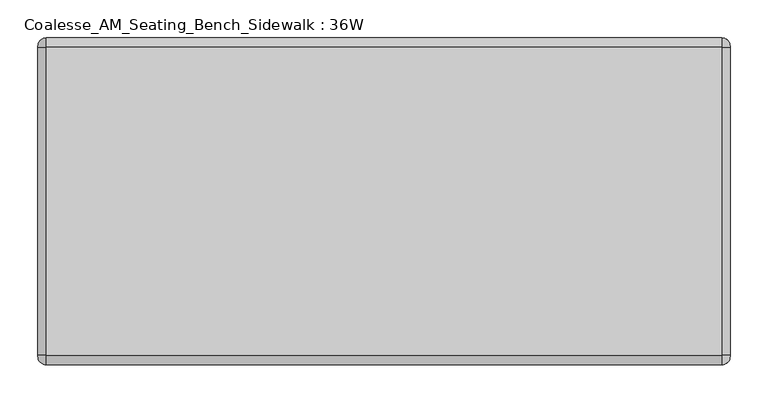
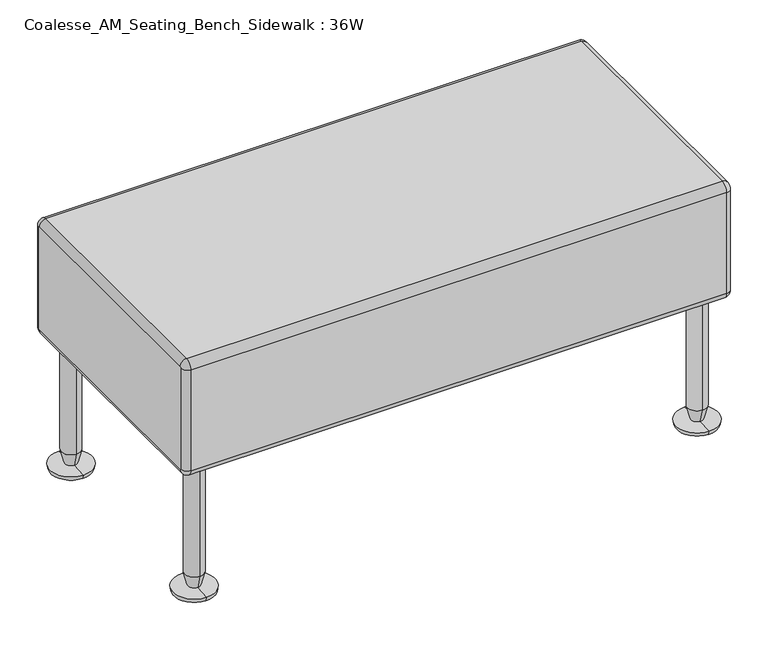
"""IFC4 building model written with IfcOpenShell, lengths in millimetres: furniture geometry, Coalesse_AM_Seating_Bench_Sidewalk : 36W."""

from ifc_helpers import new_model, si_unit, point, frame, origin, place, context, project, spatial, polyline, circle_curve, ellipse_curve, trimmed, source, transform, mapped, element, save
from ifc_brep_helpers import plane_surface, cylinder_surface, revolved_surface, advanced_brep


def coalesse_am_seating_bench_sidewalk_36w_3323d4bf(model_context):
    return source(origin(), model_context, "Body", "AdvancedBrep", [
        advanced_brep(
        [(465.8089794, -146.3050929, 420.6875), (465.8089794, -144.7175929, 419.1), (465.8089794, -144.7175929, 241.3), (465.8089794, -146.3050929, 239.7125), (465.8089794, -552.7050929, 239.7125), (465.8089794, -554.2925929, 241.3), (465.8089794, -554.2925929, 419.1), (465.8089794, -552.7050929, 420.6875), (1380.2089794, -552.7050929, 420.6875), (1380.2089794, -554.2925929, 419.1), (1380.2089794, -554.2925929, 241.3), (1380.2089794, -552.7050929, 239.7125), (1380.2089794, -146.3050929, 239.7125), (1380.2089794, -144.7175929, 241.3), (1380.2089794, -144.7175929, 419.1), (1380.2089794, -146.3050929, 420.6875), (476.9214794, -146.3050929, 431.8), (476.9214794, -552.7050929, 431.8), (1369.0964794, -552.7050929, 431.8), (1369.0964794, -146.3050929, 431.8), (476.9214794, -133.6050929, 419.1), (1369.0964794, -133.6050929, 419.1), (476.9214794, -133.6050929, 241.3), (1369.0964794, -133.6050929, 241.3), (476.9214794, -146.3050929, 228.6), (1369.0964794, -146.3050929, 228.6), (476.9214794, -552.7050929, 228.6), (1369.0964794, -552.7050929, 228.6), (476.9214794, -565.4050929, 241.3), (1369.0964794, -565.4050929, 241.3), (476.9214794, -565.4050929, 419.1), (1369.0964794, -565.4050929, 419.1)],
        [
            (0, 1, circle_curve(frame((465.8089794, -146.3050929, 419.1), z_axis=(-1.0, 0.0, 0.0), x_axis=(0.0, 0.0, 1.0)), 1.5875)),
            (1, 2),
            (2, 3, circle_curve(frame((465.8089794, -146.3050929, 241.3), z_axis=(-1.0, 0.0, 0.0), x_axis=(0.0, 1.0, 0.0)), 1.5875)),
            (3, 4),
            (4, 5, circle_curve(frame((465.8089794, -552.7050929, 241.3), z_axis=(-1.0, 0.0, 0.0), x_axis=(0.0, 0.0, -1.0)), 1.5875)),
            (5, 6),
            (6, 7, circle_curve(frame((465.8089794, -552.7050929, 419.1), z_axis=(-1.0, 0.0, 0.0), x_axis=(0.0, -1.0, 0.0)), 1.5875)),
            (7, 0),
            (8, 9, circle_curve(frame((1380.2089794, -552.7050929, 419.1), z_axis=(1.0, 0.0, 0.0), x_axis=(0.0, 0.0, 1.0)), 1.5875)),
            (9, 10),
            (10, 11, circle_curve(frame((1380.2089794, -552.7050929, 241.3), z_axis=(1.0, 0.0, 0.0), x_axis=(0.0, -1.0, 0.0)), 1.5875)),
            (11, 12),
            (12, 13, circle_curve(frame((1380.2089794, -146.3050929, 241.3), z_axis=(1.0, 0.0, 0.0), x_axis=(0.0, 0.0, -1.0)), 1.5875)),
            (13, 14),
            (14, 15, circle_curve(frame((1380.2089794, -146.3050929, 419.1), z_axis=(1.0, 0.0, 0.0), x_axis=(0.0, 1.0, 0.0)), 1.5875)),
            (15, 8),
            (16, 17),
            (17, 18),
            (18, 19),
            (19, 16),
            (20, 16, circle_curve(frame((476.9214794, -146.3050929, 419.1), z_axis=(1.0, 0.0, 0.0), x_axis=(0.0, -1.0, 0.0)), 12.7)),
            (19, 21, circle_curve(frame((1369.0964794, -146.3050929, 419.1), z_axis=(-1.0, 0.0, 0.0), x_axis=(0.0, -1.0, 0.0)), 12.7)),
            (21, 20),
            (22, 20),
            (21, 23),
            (23, 22),
            (24, 22, circle_curve(frame((476.9214794, -146.3050929, 241.3), z_axis=(1.0, 0.0, 0.0), x_axis=(0.0, -1.0, 0.0)), 12.7)),
            (23, 25, circle_curve(frame((1369.0964794, -146.3050929, 241.3), z_axis=(-1.0, 0.0, 0.0), x_axis=(0.0, -1.0, 0.0)), 12.7)),
            (25, 24),
            (26, 24),
            (25, 27),
            (27, 26),
            (28, 26, circle_curve(frame((476.9214794, -552.7050929, 241.3), z_axis=(1.0, 0.0, 0.0), x_axis=(0.0, -1.0, 0.0)), 12.7)),
            (27, 29, circle_curve(frame((1369.0964794, -552.7050929, 241.3), z_axis=(-1.0, 0.0, 0.0), x_axis=(0.0, -1.0, 0.0)), 12.7)),
            (29, 28),
            (30, 28),
            (29, 31),
            (31, 30),
            (17, 30, circle_curve(frame((476.9214794, -552.7050929, 419.1), z_axis=(1.0, 0.0, 0.0), x_axis=(0.0, -1.0, 0.0)), 12.7)),
            (31, 18, circle_curve(frame((1369.0964794, -552.7050929, 419.1), z_axis=(-1.0, 0.0, 0.0), x_axis=(0.0, -1.0, 0.0)), 12.7)),
            (20, 1, circle_curve(frame((476.9214794, -144.7175929, 419.1), z_axis=(0.0, 0.0, 1.0), x_axis=(0.0, -1.0, 0.0)), 11.1125)),
            (0, 16, circle_curve(frame((476.9214794, -146.3050929, 420.6875), z_axis=(0.0, 1.0, 0.0), x_axis=(0.0, 0.0, -1.0)), 11.1125)),
            (22, 2, circle_curve(frame((476.9214794, -144.7175929, 241.3), z_axis=(0.0, 0.0, 1.0), x_axis=(0.0, -1.0, 0.0)), 11.1125)),
            (24, 3, circle_curve(frame((476.9214794, -146.3050929, 239.7125), z_axis=(0.0, 1.0, 0.0), x_axis=(0.0, 0.0, 1.0)), 11.1125)),
            (26, 4, circle_curve(frame((476.9214794, -552.7050929, 239.7125), z_axis=(0.0, 1.0, 0.0), x_axis=(0.0, 0.0, 1.0)), 11.1125)),
            (28, 5, circle_curve(frame((476.9214794, -554.2925929, 241.3), z_axis=(0.0, 0.0, -1.0), x_axis=(0.0, 1.0, 0.0)), 11.1125)),
            (30, 6, circle_curve(frame((476.9214794, -554.2925929, 419.1), z_axis=(0.0, 0.0, -1.0), x_axis=(0.0, 1.0, 0.0)), 11.1125)),
            (17, 7, circle_curve(frame((476.9214794, -552.7050929, 420.6875), z_axis=(0.0, -1.0, 0.0), x_axis=(0.0, 0.0, -1.0)), 11.1125)),
            (31, 9, circle_curve(frame((1369.0964794, -554.2925929, 419.1), z_axis=(0.0, 0.0, 1.0), x_axis=(0.0, -1.0, 0.0)), 11.1125)),
            (8, 18, circle_curve(frame((1369.0964794, -552.7050929, 420.6875), z_axis=(0.0, -1.0, 0.0), x_axis=(0.0, 0.0, 1.0)), 11.1125)),
            (29, 10, circle_curve(frame((1369.0964794, -554.2925929, 241.3), z_axis=(0.0, 0.0, 1.0), x_axis=(0.0, -1.0, 0.0)), 11.1125)),
            (27, 11, circle_curve(frame((1369.0964794, -552.7050929, 239.7125), z_axis=(0.0, -1.0, 0.0), x_axis=(0.0, 0.0, -1.0)), 11.1125)),
            (25, 12, circle_curve(frame((1369.0964794, -146.3050929, 239.7125), z_axis=(0.0, -1.0, 0.0), x_axis=(0.0, 0.0, -1.0)), 11.1125)),
            (23, 13, circle_curve(frame((1369.0964794, -144.7175929, 241.3), z_axis=(0.0, 0.0, -1.0), x_axis=(0.0, 1.0, 0.0)), 11.1125)),
            (21, 14, circle_curve(frame((1369.0964794, -144.7175929, 419.1), z_axis=(0.0, 0.0, -1.0), x_axis=(0.0, 1.0, 0.0)), 11.1125)),
            (19, 15, circle_curve(frame((1369.0964794, -146.3050929, 420.6875), z_axis=(0.0, 1.0, 0.0), x_axis=(0.0, 0.0, 1.0)), 11.1125)),
        ],
        [
            plane_surface(frame((465.8089794, -146.3050929, 431.8), z_axis=(-1.0, 0.0, 0.0), x_axis=(0.0, 1.0, 0.0))),
            plane_surface(frame((1380.2089794, -146.3050929, 431.8), z_axis=(1.0, 0.0, 0.0), x_axis=(0.0, -1.0, 0.0))),
            plane_surface(frame((465.8089794, -552.7050929, 431.8), z_axis=(0.0, 0.0, 1.0), x_axis=(1.0, 0.0, 0.0))),
            cylinder_surface(frame((1380.2089794, -146.3050929, 419.1), z_axis=(-1.0, 0.0, 0.0), x_axis=(0.0, -1.0, 0.0)), 12.7),
            plane_surface(frame((465.8089794, -133.6050929, 419.1), z_axis=(0.0, 1.0, 0.0), x_axis=(1.0, 0.0, 0.0))),
            cylinder_surface(frame((1380.2089794, -146.3050929, 241.3), z_axis=(-1.0, 0.0, 0.0), x_axis=(0.0, -1.0, 0.0)), 12.7),
            plane_surface(frame((465.8089794, -146.3050929, 228.6), z_axis=(0.0, 0.0, -1.0), x_axis=(1.0, 0.0, 0.0))),
            cylinder_surface(frame((1380.2089794, -552.7050929, 241.3), z_axis=(-1.0, 0.0, 0.0), x_axis=(0.0, -1.0, 0.0)), 12.7),
            plane_surface(frame((465.8089794, -565.4050929, 241.3), z_axis=(0.0, -1.0, 0.0), x_axis=(1.0, 0.0, 0.0))),
            cylinder_surface(frame((1380.2089794, -552.7050929, 419.1), z_axis=(-1.0, 0.0, 0.0), x_axis=(0.0, -1.0, 0.0)), 12.7),
            revolved_surface(trimmed(ellipse_curve(frame((476.9214794, -146.3050929, 420.6875), z_axis=(0.0, -1.0, 0.0), x_axis=(0.0, 0.0, -1.0)), 11.1125, 11.1125), [point((476.9214794, -146.3050929, 431.8))], [point((465.8089794, -146.3050929, 420.6875))], True, "CARTESIAN"), (465.8089794, -146.3050929, 419.1), (-1.0, 0.0, 0.0)),
            cylinder_surface(frame((476.9214794, -144.7175929, 419.1), z_axis=(0.0, 0.0, -1.0), x_axis=(0.0, -1.0, 0.0)), 11.1125),
            revolved_surface(trimmed(ellipse_curve(frame((476.9214794, -144.7175929, 241.3), z_axis=(0.0, 0.0, 1.0), x_axis=(0.0, -1.0, 0.0)), 11.1125, 11.1125), [point((476.9214794, -133.6050929, 241.3))], [point((465.8089794, -144.7175929, 241.3))], True, "CARTESIAN"), (465.8089794, -146.3050929, 241.3), (-1.0, 0.0, 0.0)),
            cylinder_surface(frame((476.9214794, -146.3050929, 239.7125), z_axis=(0.0, -1.0, 0.0), x_axis=(0.0, 0.0, 1.0)), 11.1125),
            revolved_surface(trimmed(ellipse_curve(frame((476.9214794, -552.7050929, 239.7125), z_axis=(0.0, 1.0, 0.0), x_axis=(0.0, 0.0, 1.0)), 11.1125, 11.1125), [point((476.9214794, -552.7050929, 228.6))], [point((465.8089794, -552.7050929, 239.7125))], True, "CARTESIAN"), (465.8089794, -552.7050929, 241.3), (-1.0, 0.0, 0.0)),
            cylinder_surface(frame((476.9214794, -554.2925929, 241.3), z_axis=(0.0, 0.0, 1.0), x_axis=(0.0, 1.0, 0.0)), 11.1125),
            revolved_surface(trimmed(ellipse_curve(frame((476.9214794, -554.2925929, 419.1), z_axis=(0.0, 0.0, -1.0), x_axis=(0.0, 1.0, 0.0)), 11.1125, 11.1125), [point((476.9214794, -565.4050929, 419.1))], [point((465.8089794, -554.2925929, 419.1))], True, "CARTESIAN"), (465.8089794, -552.7050929, 419.1), (-1.0, 0.0, 0.0)),
            cylinder_surface(frame((476.9214794, -552.7050929, 420.6875), z_axis=(0.0, 1.0, 0.0), x_axis=(0.0, 0.0, -1.0)), 11.1125),
            revolved_surface(trimmed(ellipse_curve(frame((1369.0964794, -552.7050929, 420.6875), z_axis=(0.0, 1.0, 0.0), x_axis=(0.0, 0.0, 1.0)), 11.1125, 11.1125), [point((1369.0964794, -552.7050929, 431.8))], [point((1380.2089794, -552.7050929, 420.6875))], True, "CARTESIAN"), (1380.2089794, -552.7050929, 419.1), (1.0, 0.0, 0.0)),
            cylinder_surface(frame((1369.0964794, -554.2925929, 419.1), z_axis=(0.0, 0.0, -1.0), x_axis=(0.0, -1.0, 0.0)), 11.1125),
            revolved_surface(trimmed(ellipse_curve(frame((1369.0964794, -554.2925929, 241.3), z_axis=(0.0, 0.0, 1.0), x_axis=(0.0, -1.0, 0.0)), 11.1125, 11.1125), [point((1369.0964794, -565.4050929, 241.3))], [point((1380.2089794, -554.2925929, 241.3))], True, "CARTESIAN"), (1380.2089794, -552.7050929, 241.3), (1.0, 0.0, 0.0)),
            cylinder_surface(frame((1369.0964794, -552.7050929, 239.7125), z_axis=(0.0, 1.0, 0.0), x_axis=(0.0, 0.0, -1.0)), 11.1125),
            revolved_surface(trimmed(ellipse_curve(frame((1369.0964794, -146.3050929, 239.7125), z_axis=(0.0, -1.0, 0.0), x_axis=(0.0, 0.0, -1.0)), 11.1125, 11.1125), [point((1369.0964794, -146.3050929, 228.6))], [point((1380.2089794, -146.3050929, 239.7125))], True, "CARTESIAN"), (1380.2089794, -146.3050929, 241.3), (1.0, 0.0, 0.0)),
            cylinder_surface(frame((1369.0964794, -144.7175929, 241.3), z_axis=(0.0, 0.0, 1.0), x_axis=(0.0, 1.0, 0.0)), 11.1125),
            revolved_surface(trimmed(ellipse_curve(frame((1369.0964794, -144.7175929, 419.1), z_axis=(0.0, 0.0, -1.0), x_axis=(0.0, 1.0, 0.0)), 11.1125, 11.1125), [point((1369.0964794, -133.6050929, 419.1))], [point((1380.2089794, -144.7175929, 419.1))], True, "CARTESIAN"), (1380.2089794, -146.3050929, 419.1), (1.0, 0.0, 0.0)),
            cylinder_surface(frame((1369.0964794, -146.3050929, 420.6875), z_axis=(0.0, -1.0, 0.0), x_axis=(0.0, 0.0, 1.0)), 11.1125),
        ],
        [
            (0, [[1, 2, 3, 4, 5, 6, 7, 8]]),
            (1, [[9, 10, 11, 12, 13, 14, 15, 16]]),
            (2, [[17, 18, 19, 20]]),
            (3, [[21, -20, 22, 23]]),
            (4, [[24, -23, 25, 26]]),
            (5, [[27, -26, 28, 29]]),
            (6, [[30, -29, 31, 32]]),
            (7, [[33, -32, 34, 35]]),
            (8, [[36, -35, 37, 38]]),
            (9, [[39, -38, 40, -18]]),
            (10, [[41, -1, 42, -21]]),
            (11, [[-41, -24, 43, -2]]),
            (12, [[-43, -27, 44, -3]]),
            (13, [[-44, -30, 45, -4]]),
            (14, [[-45, -33, 46, -5]]),
            (15, [[-46, -36, 47, -6]]),
            (16, [[-47, -39, 48, -7]]),
            (17, [[-42, -8, -48, -17]]),
            (18, [[49, -9, 50, -40]]),
            (19, [[-49, -37, 51, -10]]),
            (20, [[-51, -34, 52, -11]]),
            (21, [[-52, -31, 53, -12]]),
            (22, [[-53, -28, 54, -13]]),
            (23, [[-54, -25, 55, -14]]),
            (24, [[-55, -22, 56, -15]]),
            (25, [[-50, -16, -56, -19]]),
        ],
    ),
        advanced_brep(
        [(1342.1089794, -187.5800929, 31.75), (1342.1089794, -155.8300929, 31.75), (1342.1089794, -155.8300929, 228.6), (1342.1089794, -187.5800929, 228.6), (1342.1089794, -181.5884463, 8.5001207), (1342.1089794, -161.8217394, 8.5001207), (1342.1089794, -206.6300929, 6.35), (1342.1089794, -136.7800929, 6.35), (1342.1089794, -205.5717596, 0.0), (1342.1089794, -137.8384262, 0.0), (1342.1089794, -171.7050929, 0.0), (1342.1089794, -171.7050929, 228.6)],
        [
            (0, 1, circle_curve(frame((1342.1089794, -171.7050929, 31.75), z_axis=(0.0, 0.0, 1.0), x_axis=(0.0, 1.0, 0.0)), 15.875)),
            (1, 2),
            (2, 3, circle_curve(frame((1342.1089794, -171.7050929, 228.6), z_axis=(0.0, 0.0, -1.0), x_axis=(0.0, 1.0, 0.0)), 15.875)),
            (3, 0),
            (1, 0, circle_curve(frame((1342.1089794, -171.7050929, 31.75), z_axis=(0.0, 0.0, 1.0), x_axis=(0.0, 1.0, 0.0)), 15.875)),
            (3, 2, circle_curve(frame((1342.1089794, -171.7050929, 228.6), z_axis=(0.0, 0.0, -1.0), x_axis=(0.0, 1.0, 0.0)), 15.875)),
            (4, 5, circle_curve(frame((1342.1089794, -171.7050929, 8.5001207), z_axis=(0.0, 0.0, 1.0), x_axis=(0.0, 1.0, 0.0)), 9.8833534)),
            (5, 1),
            (0, 4),
            (5, 4, circle_curve(frame((1342.1089794, -171.7050929, 8.5001207), z_axis=(0.0, 0.0, 1.0), x_axis=(0.0, 1.0, 0.0)), 9.8833534)),
            (6, 7, circle_curve(frame((1342.1089794, -171.7050929, 6.35), z_axis=(0.0, 0.0, 1.0), x_axis=(0.0, 1.0, 0.0)), 34.925)),
            (7, 5),
            (4, 6),
            (7, 6, circle_curve(frame((1342.1089794, -171.7050929, 6.35), z_axis=(0.0, 0.0, 1.0), x_axis=(0.0, 1.0, 0.0)), 34.925)),
            (8, 9, circle_curve(frame((1342.1089794, -171.7050929, 0.0), z_axis=(0.0, 0.0, 1.0), x_axis=(0.0, 1.0, 0.0)), 33.8666667)),
            (9, 7),
            (6, 8),
            (9, 8, circle_curve(frame((1342.1089794, -171.7050929, 0.0), z_axis=(0.0, 0.0, 1.0), x_axis=(0.0, 1.0, 0.0)), 33.8666667)),
            (10, 9),
            (8, 10),
            (2, 11),
            (11, 3),
        ],
        [
            cylinder_surface(frame((1342.1089794, -171.7050929, -95.25), z_axis=(0.0, 0.0, -1.0), x_axis=(0.0, 1.0, 0.0)), 15.875),
            revolved_surface(polyline([(1342.1089794, -155.8300929, 31.75), (1342.1089794, -161.8217394, 8.5001207)]), (1342.1089794, -171.7050929, -95.25), (0.0, 0.0, -1.0)),
            revolved_surface(polyline([(1342.1089794, -161.8217394, 8.5001207), (1342.1089794, -136.7800929, 6.35)]), (1342.1089794, -171.7050929, -95.25), (0.0, 0.0, -1.0)),
            revolved_surface(polyline([(1342.1089794, -136.7800929, 6.35), (1342.1089794, -137.8384262, 0.0)]), (1342.1089794, -171.7050929, -95.25), (0.0, 0.0, -1.0)),
            plane_surface(frame((1342.1089794, -171.7050929, 0.0), z_axis=(0.0, 0.0, -1.0), x_axis=(0.0, 1.0, 0.0))),
            plane_surface(frame((1342.1089794, -171.7050929, 228.6), z_axis=(0.0, 0.0, 1.0), x_axis=(0.0, 1.0, 0.0))),
        ],
        [
            (0, [[1, 2, 3, 4]]),
            (0, [[5, -4, 6, -2]]),
            (1, [[7, 8, -1, 9]]),
            (1, [[10, -9, -5, -8]]),
            (2, [[11, 12, -7, 13]]),
            (2, [[14, -13, -10, -12]]),
            (3, [[15, 16, -11, 17]]),
            (3, [[18, -17, -14, -16]]),
            (4, [[19, -15, 20]]),
            (4, [[-20, -18, -19]]),
            (5, [[-3, 21, 22]]),
            (5, [[-6, -22, -21]]),
        ],
    ),
        advanced_brep(
        [(503.9089794, -171.7050929, 228.6), (503.9089794, -155.8300929, 228.6), (503.9089794, -187.5800929, 228.6), (503.9089794, -205.5717596, 0.0), (503.9089794, -137.8384262, 0.0), (503.9089794, -171.7050929, 0.0), (503.9089794, -206.6300929, 6.35), (503.9089794, -136.7800929, 6.35), (503.9089794, -181.5884463, 8.5001207), (503.9089794, -161.8217394, 8.5001207), (503.9089794, -187.5800929, 31.75), (503.9089794, -155.8300929, 31.75)],
        [
            (0, 1),
            (1, 2, circle_curve(frame((503.9089794, -171.7050929, 228.6), z_axis=(0.0, 0.0, 1.0), x_axis=(0.0, 1.0, 0.0)), 15.875)),
            (2, 0),
            (2, 1, circle_curve(frame((503.9089794, -171.7050929, 228.6), z_axis=(0.0, 0.0, 1.0), x_axis=(0.0, 1.0, 0.0)), 15.875)),
            (3, 4, circle_curve(frame((503.9089794, -171.7050929, 0.0), z_axis=(0.0, 0.0, -1.0), x_axis=(0.0, 1.0, 0.0)), 33.8666667)),
            (4, 5),
            (5, 3),
            (4, 3, circle_curve(frame((503.9089794, -171.7050929, 0.0), z_axis=(0.0, 0.0, -1.0), x_axis=(0.0, 1.0, 0.0)), 33.8666667)),
            (6, 7, circle_curve(frame((503.9089794, -171.7050929, 6.35), z_axis=(0.0, 0.0, -1.0), x_axis=(0.0, 1.0, 0.0)), 34.925)),
            (7, 4),
            (3, 6),
            (7, 6, circle_curve(frame((503.9089794, -171.7050929, 6.35), z_axis=(0.0, 0.0, -1.0), x_axis=(0.0, 1.0, 0.0)), 34.925)),
            (8, 9, circle_curve(frame((503.9089794, -171.7050929, 8.5001207), z_axis=(0.0, 0.0, -1.0), x_axis=(0.0, 1.0, 0.0)), 9.8833534)),
            (9, 7),
            (6, 8),
            (9, 8, circle_curve(frame((503.9089794, -171.7050929, 8.5001207), z_axis=(0.0, 0.0, -1.0), x_axis=(0.0, 1.0, 0.0)), 9.8833534)),
            (10, 11, circle_curve(frame((503.9089794, -171.7050929, 31.75), z_axis=(0.0, 0.0, -1.0), x_axis=(0.0, 1.0, 0.0)), 15.875)),
            (11, 9),
            (8, 10),
            (11, 10, circle_curve(frame((503.9089794, -171.7050929, 31.75), z_axis=(0.0, 0.0, -1.0), x_axis=(0.0, 1.0, 0.0)), 15.875)),
            (1, 11),
            (10, 2),
        ],
        [
            plane_surface(frame((503.9089794, -171.7050929, 228.6), z_axis=(0.0, 0.0, 1.0), x_axis=(0.0, 1.0, 0.0))),
            plane_surface(frame((503.9089794, -171.7050929, 0.0), z_axis=(0.0, 0.0, -1.0), x_axis=(0.0, 1.0, 0.0))),
            revolved_surface(polyline([(503.9089794, -137.8384262, 0.0), (503.9089794, -136.7800929, 6.35)]), (503.9089794, -171.7050929, -95.25), (0.0, 0.0, 1.0)),
            revolved_surface(polyline([(503.9089794, -136.7800929, 6.35), (503.9089794, -161.8217394, 8.5001207)]), (503.9089794, -171.7050929, -95.25), (0.0, 0.0, 1.0)),
            revolved_surface(polyline([(503.9089794, -161.8217394, 8.5001207), (503.9089794, -155.8300929, 31.75)]), (503.9089794, -171.7050929, -95.25), (0.0, 0.0, 1.0)),
            cylinder_surface(frame((503.9089794, -171.7050929, -95.25), z_axis=(0.0, 0.0, 1.0), x_axis=(0.0, 1.0, 0.0)), 15.875),
        ],
        [
            (0, [[1, 2, 3]]),
            (0, [[-3, 4, -1]]),
            (1, [[5, 6, 7]]),
            (1, [[8, -7, -6]]),
            (2, [[9, 10, -5, 11]]),
            (2, [[12, -11, -8, -10]]),
            (3, [[13, 14, -9, 15]]),
            (3, [[16, -15, -12, -14]]),
            (4, [[17, 18, -13, 19]]),
            (4, [[20, -19, -16, -18]]),
            (5, [[-2, 21, -17, 22]]),
            (5, [[-4, -22, -20, -21]]),
        ],
    ),
        advanced_brep(
        [(1342.1089794, -543.1800929, 31.75), (1342.1089794, -511.4300929, 31.75), (1342.1089794, -511.4300929, 228.6), (1342.1089794, -543.1800929, 228.6), (1342.1089794, -537.1884463, 8.5001207), (1342.1089794, -517.4217394, 8.5001207), (1342.1089794, -562.2300929, 6.35), (1342.1089794, -492.3800929, 6.35), (1342.1089794, -561.1717596, 0.0), (1342.1089794, -493.4384262, 0.0), (1342.1089794, -527.3050929, 0.0), (1342.1089794, -527.3050929, 228.6)],
        [
            (0, 1, circle_curve(frame((1342.1089794, -527.3050929, 31.75), z_axis=(0.0, 0.0, 1.0), x_axis=(0.0, 1.0, 0.0)), 15.875)),
            (1, 2),
            (2, 3, circle_curve(frame((1342.1089794, -527.3050929, 228.6), z_axis=(0.0, 0.0, -1.0), x_axis=(0.0, 1.0, 0.0)), 15.875)),
            (3, 0),
            (1, 0, circle_curve(frame((1342.1089794, -527.3050929, 31.75), z_axis=(0.0, 0.0, 1.0), x_axis=(0.0, 1.0, 0.0)), 15.875)),
            (3, 2, circle_curve(frame((1342.1089794, -527.3050929, 228.6), z_axis=(0.0, 0.0, -1.0), x_axis=(0.0, 1.0, 0.0)), 15.875)),
            (4, 5, circle_curve(frame((1342.1089794, -527.3050929, 8.5001207), z_axis=(0.0, 0.0, 1.0), x_axis=(0.0, 1.0, 0.0)), 9.8833534)),
            (5, 1),
            (0, 4),
            (5, 4, circle_curve(frame((1342.1089794, -527.3050929, 8.5001207), z_axis=(0.0, 0.0, 1.0), x_axis=(0.0, 1.0, 0.0)), 9.8833534)),
            (6, 7, circle_curve(frame((1342.1089794, -527.3050929, 6.35), z_axis=(0.0, 0.0, 1.0), x_axis=(0.0, 1.0, 0.0)), 34.925)),
            (7, 5),
            (4, 6),
            (7, 6, circle_curve(frame((1342.1089794, -527.3050929, 6.35), z_axis=(0.0, 0.0, 1.0), x_axis=(0.0, 1.0, 0.0)), 34.925)),
            (8, 9, circle_curve(frame((1342.1089794, -527.3050929, 0.0), z_axis=(0.0, 0.0, 1.0), x_axis=(0.0, 1.0, 0.0)), 33.8666667)),
            (9, 7),
            (6, 8),
            (9, 8, circle_curve(frame((1342.1089794, -527.3050929, 0.0), z_axis=(0.0, 0.0, 1.0), x_axis=(0.0, 1.0, 0.0)), 33.8666667)),
            (10, 9),
            (8, 10),
            (2, 11),
            (11, 3),
        ],
        [
            cylinder_surface(frame((1342.1089794, -527.3050929, -95.25), z_axis=(0.0, 0.0, -1.0), x_axis=(0.0, 1.0, 0.0)), 15.875),
            revolved_surface(polyline([(1342.1089794, -511.4300929, 31.75), (1342.1089794, -517.4217394, 8.5001207)]), (1342.1089794, -527.3050929, -95.25), (0.0, 0.0, -1.0)),
            revolved_surface(polyline([(1342.1089794, -517.4217394, 8.5001207), (1342.1089794, -492.3800929, 6.35)]), (1342.1089794, -527.3050929, -95.25), (0.0, 0.0, -1.0)),
            revolved_surface(polyline([(1342.1089794, -492.3800929, 6.35), (1342.1089794, -493.4384262, 0.0)]), (1342.1089794, -527.3050929, -95.25), (0.0, 0.0, -1.0)),
            plane_surface(frame((1342.1089794, -527.3050929, 0.0), z_axis=(0.0, 0.0, -1.0), x_axis=(0.0, 1.0, 0.0))),
            plane_surface(frame((1342.1089794, -527.3050929, 228.6), z_axis=(0.0, 0.0, 1.0), x_axis=(0.0, 1.0, 0.0))),
        ],
        [
            (0, [[1, 2, 3, 4]]),
            (0, [[5, -4, 6, -2]]),
            (1, [[7, 8, -1, 9]]),
            (1, [[10, -9, -5, -8]]),
            (2, [[11, 12, -7, 13]]),
            (2, [[14, -13, -10, -12]]),
            (3, [[15, 16, -11, 17]]),
            (3, [[18, -17, -14, -16]]),
            (4, [[19, -15, 20]]),
            (4, [[-20, -18, -19]]),
            (5, [[-3, 21, 22]]),
            (5, [[-6, -22, -21]]),
        ],
    ),
        advanced_brep(
        [(503.9089794, -527.3050929, 228.6), (503.9089794, -511.4300929, 228.6), (503.9089794, -543.1800929, 228.6), (503.9089794, -561.1717596, 0.0), (503.9089794, -493.4384262, 0.0), (503.9089794, -527.3050929, 0.0), (503.9089794, -562.2300929, 6.35), (503.9089794, -492.3800929, 6.35), (503.9089794, -537.1884463, 8.5001207), (503.9089794, -517.4217394, 8.5001207), (503.9089794, -543.1800929, 31.75), (503.9089794, -511.4300929, 31.75)],
        [
            (0, 1),
            (1, 2, circle_curve(frame((503.9089794, -527.3050929, 228.6), z_axis=(0.0, 0.0, 1.0), x_axis=(0.0, 1.0, 0.0)), 15.875)),
            (2, 0),
            (2, 1, circle_curve(frame((503.9089794, -527.3050929, 228.6), z_axis=(0.0, 0.0, 1.0), x_axis=(0.0, 1.0, 0.0)), 15.875)),
            (3, 4, circle_curve(frame((503.9089794, -527.3050929, 0.0), z_axis=(0.0, 0.0, -1.0), x_axis=(0.0, 1.0, 0.0)), 33.8666667)),
            (4, 5),
            (5, 3),
            (4, 3, circle_curve(frame((503.9089794, -527.3050929, 0.0), z_axis=(0.0, 0.0, -1.0), x_axis=(0.0, 1.0, 0.0)), 33.8666667)),
            (6, 7, circle_curve(frame((503.9089794, -527.3050929, 6.35), z_axis=(0.0, 0.0, -1.0), x_axis=(0.0, 1.0, 0.0)), 34.925)),
            (7, 4),
            (3, 6),
            (7, 6, circle_curve(frame((503.9089794, -527.3050929, 6.35), z_axis=(0.0, 0.0, -1.0), x_axis=(0.0, 1.0, 0.0)), 34.925)),
            (8, 9, circle_curve(frame((503.9089794, -527.3050929, 8.5001207), z_axis=(0.0, 0.0, -1.0), x_axis=(0.0, 1.0, 0.0)), 9.8833534)),
            (9, 7),
            (6, 8),
            (9, 8, circle_curve(frame((503.9089794, -527.3050929, 8.5001207), z_axis=(0.0, 0.0, -1.0), x_axis=(0.0, 1.0, 0.0)), 9.8833534)),
            (10, 11, circle_curve(frame((503.9089794, -527.3050929, 31.75), z_axis=(0.0, 0.0, -1.0), x_axis=(0.0, 1.0, 0.0)), 15.875)),
            (11, 9),
            (8, 10),
            (11, 10, circle_curve(frame((503.9089794, -527.3050929, 31.75), z_axis=(0.0, 0.0, -1.0), x_axis=(0.0, 1.0, 0.0)), 15.875)),
            (1, 11),
            (10, 2),
        ],
        [
            plane_surface(frame((503.9089794, -527.3050929, 228.6), z_axis=(0.0, 0.0, 1.0), x_axis=(0.0, 1.0, 0.0))),
            plane_surface(frame((503.9089794, -527.3050929, 0.0), z_axis=(0.0, 0.0, -1.0), x_axis=(0.0, 1.0, 0.0))),
            revolved_surface(polyline([(503.9089794, -493.4384262, 0.0), (503.9089794, -492.3800929, 6.35)]), (503.9089794, -527.3050929, -95.25), (0.0, 0.0, 1.0)),
            revolved_surface(polyline([(503.9089794, -492.3800929, 6.35), (503.9089794, -517.4217394, 8.5001207)]), (503.9089794, -527.3050929, -95.25), (0.0, 0.0, 1.0)),
            revolved_surface(polyline([(503.9089794, -517.4217394, 8.5001207), (503.9089794, -511.4300929, 31.75)]), (503.9089794, -527.3050929, -95.25), (0.0, 0.0, 1.0)),
            cylinder_surface(frame((503.9089794, -527.3050929, -95.25), z_axis=(0.0, 0.0, 1.0), x_axis=(0.0, 1.0, 0.0)), 15.875),
        ],
        [
            (0, [[1, 2, 3]]),
            (0, [[-3, 4, -1]]),
            (1, [[5, 6, 7]]),
            (1, [[8, -7, -6]]),
            (2, [[9, 10, -5, 11]]),
            (2, [[12, -11, -8, -10]]),
            (3, [[13, 14, -9, 15]]),
            (3, [[16, -15, -12, -14]]),
            (4, [[17, 18, -13, 19]]),
            (4, [[20, -19, -16, -18]]),
            (5, [[-2, 21, -17, 22]]),
            (5, [[-4, -22, -20, -21]]),
        ],
    ),
    ])


if __name__ == "__main__":
    model = new_model("IFC4")
    model_context = context("Model", 3, world=origin())
    ifc_project = project(units=[si_unit("LENGTHUNIT", "METRE", prefix="MILLI")], contexts=[model_context])
    site = spatial("IfcSite", under=ifc_project)
    building = spatial("IfcBuilding", under=site)
    placement = place(None, origin())
    coalesse_am_seating_bench_sidewalk_36w_shape = coalesse_am_seating_bench_sidewalk_36w_3323d4bf(model_context)
    element("IfcFurniture", 1, ObjectType="Coalesse_AM_Seating_Bench_Sidewalk : 36W", at=placement, inside=building, context=model_context, shape_type="MappedRepresentation", body=[
        mapped(coalesse_am_seating_bench_sidewalk_36w_shape, transform((0.0, 0.0, 0.0), x_axis=(1.0, 0.0, 0.0), y_axis=(0.0, 1.0, 0.0), z_axis=(0.0, 0.0, 1.0))),
    ])
    save(model, "model.ifc")
